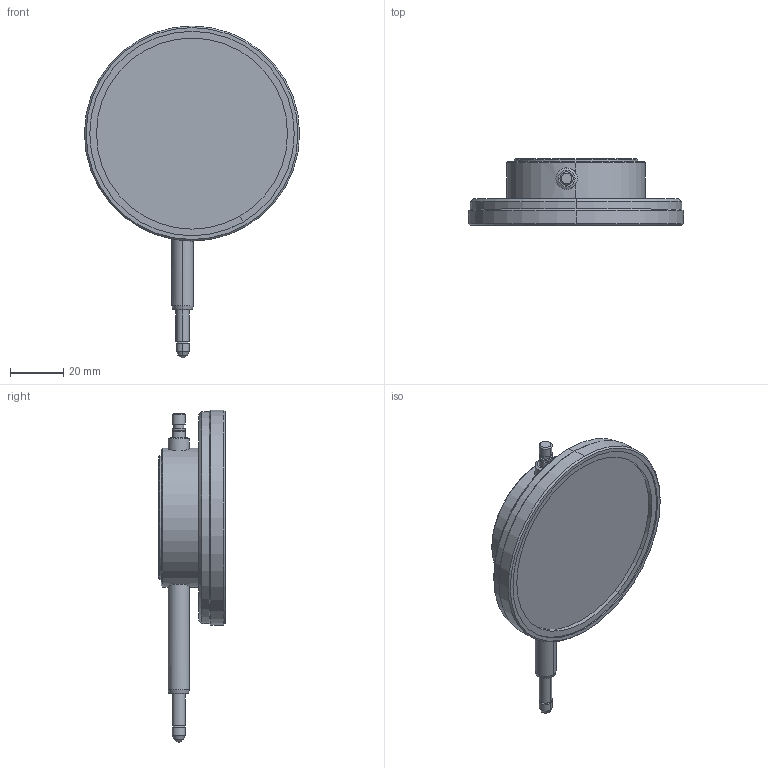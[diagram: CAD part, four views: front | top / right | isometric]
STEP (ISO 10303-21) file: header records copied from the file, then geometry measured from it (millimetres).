
FILE_DESCRIPTION(('STEP AP214'),'1');
FILE_NAME('GM10-80.STP','2016-07-14T05:39:28',(' '),(' '),'Spatial InterOp 3D',' ',' ');
FILE_SCHEMA(('automotive_design'));
Length unit declared in the file: millimetre
Products named in the file (1): GM10/80
Bounding box: 80.5 x 24.95 x 124.24 mm (x, y, z)
Volume: 75152.9 mm3; surface area: 16776.3 mm2
Topology: 1 solids, 4 shells, 126 faces, 280 edges, 178 vertices
Faces by surface type: cylinder 53, plane 44, cone 28, sphere 1
Entity records: 4689 total; most frequent: CARTESIAN_POINT 731, DIRECTION 672, ORIENTED_EDGE 560, EDGE_CURVE 280, AXIS2_PLACEMENT_3D 275, VERTEX_POINT 178, EDGE_LOOP 148, CIRCLE 148
